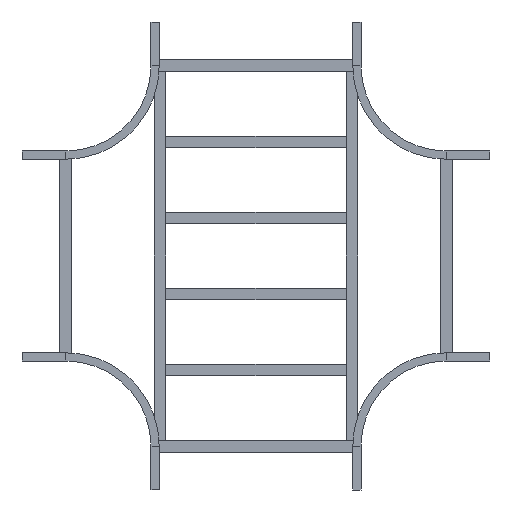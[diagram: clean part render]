
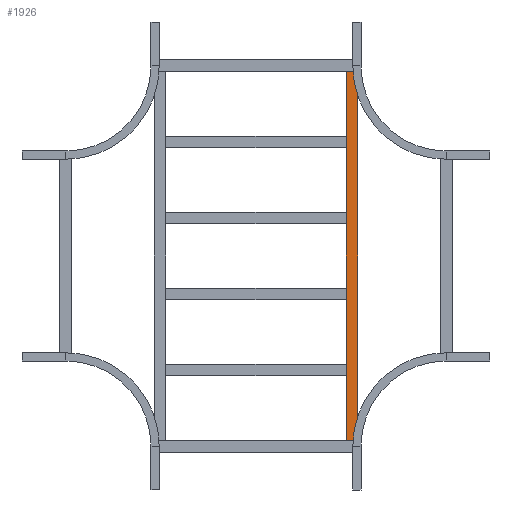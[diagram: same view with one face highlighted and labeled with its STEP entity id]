
A CAD part, front view. The second image highlights one B-rep face of the part: STEP entity #1926.
In plain terms, the highlighted planar face has unit normal (0, -1, 0).
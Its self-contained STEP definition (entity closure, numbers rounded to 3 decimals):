
#26 = CARTESIAN_POINT ( 'NONE',  ( -629.75, 0., 20.25 ) ) ;
#153 = VERTEX_POINT ( 'NONE', #2108 ) ;
#180 = CARTESIAN_POINT ( 'NONE',  ( 629.75, 0., -20.25 ) ) ;
#208 = DIRECTION ( 'NONE',  ( 0., 0., 1. ) ) ;
#320 = CARTESIAN_POINT ( 'NONE',  ( 629.75, 0., 20.25 ) ) ;
#350 = VECTOR ( 'NONE', #1989, 1000. ) ;
#398 = ORIENTED_EDGE ( 'NONE', *, *, #1493, .F. ) ;
#403 = VERTEX_POINT ( 'NONE', #1660 ) ;
#410 = ORIENTED_EDGE ( 'NONE', *, *, #1451, .T. ) ;
#495 = VECTOR ( 'NONE', #1957, 1000. ) ;
#623 = EDGE_CURVE ( 'NONE', #403, #732, #1217, .T. ) ;
#726 = AXIS2_PLACEMENT_3D ( 'NONE', #1280, #1434, #208 ) ;
#732 = VERTEX_POINT ( 'NONE', #1236 ) ;
#765 = EDGE_CURVE ( 'NONE', #1301, #153, #1969, .T. ) ;
#917 = FACE_OUTER_BOUND ( 'NONE', #2263, .T. ) ;
#1133 = CARTESIAN_POINT ( 'NONE',  ( 629.75, 0., 20.25 ) ) ;
#1170 = ORIENTED_EDGE ( 'NONE', *, *, #765, .F. ) ;
#1217 = LINE ( 'NONE', #26, #495 ) ;
#1224 = ORIENTED_EDGE ( 'NONE', *, *, #623, .T. ) ;
#1236 = CARTESIAN_POINT ( 'NONE',  ( -629.75, 0., -20.25 ) ) ;
#1256 = PLANE ( 'NONE',  #726 ) ;
#1280 = CARTESIAN_POINT ( 'NONE',  ( 629.75, 0., 20.25 ) ) ;
#1282 = CARTESIAN_POINT ( 'NONE',  ( 629.75, 0., 20.25 ) ) ;
#1301 = VERTEX_POINT ( 'NONE', #1133 ) ;
#1434 = DIRECTION ( 'NONE',  ( 0., 1., 0. ) ) ;
#1451 = EDGE_CURVE ( 'NONE', #1301, #403, #2124, .T. ) ;
#1493 = EDGE_CURVE ( 'NONE', #153, #732, #1948, .T. ) ;
#1660 = CARTESIAN_POINT ( 'NONE',  ( -629.75, 0., 20.25 ) ) ;
#1741 = VECTOR ( 'NONE', #1958, 1000. ) ;
#1926 = ADVANCED_FACE ( 'NONE', ( #917 ), #1256, .F. ) ;
#1948 = LINE ( 'NONE', #180, #1741 ) ;
#1957 = DIRECTION ( 'NONE',  ( 0., 0., -1. ) ) ;
#1958 = DIRECTION ( 'NONE',  ( -1., 0., 0. ) ) ;
#1965 = VECTOR ( 'NONE', #2086, 1000. ) ;
#1969 = LINE ( 'NONE', #1282, #350 ) ;
#1989 = DIRECTION ( 'NONE',  ( 0., 0., -1. ) ) ;
#2086 = DIRECTION ( 'NONE',  ( -1., 0., 0. ) ) ;
#2108 = CARTESIAN_POINT ( 'NONE',  ( 629.75, 0., -20.25 ) ) ;
#2124 = LINE ( 'NONE', #320, #1965 ) ;
#2263 = EDGE_LOOP ( 'NONE', ( #1224, #398, #1170, #410 ) ) ;
